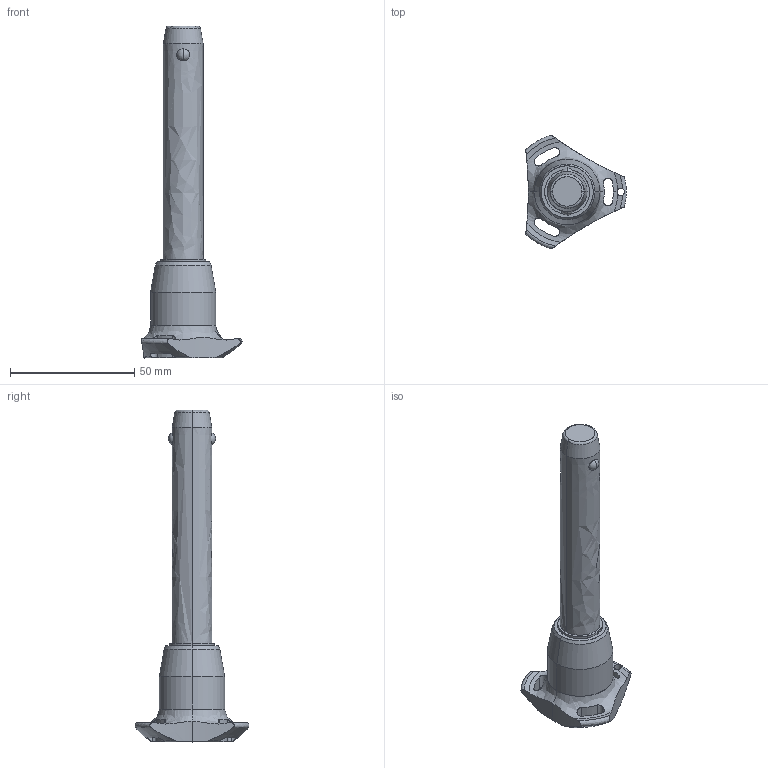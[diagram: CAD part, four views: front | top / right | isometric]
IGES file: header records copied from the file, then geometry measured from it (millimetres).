
Start section: SolidWorks IGES file using analytic representation for surfaces
Global section: file name: C:\Users\ianosborn\Desktop\QR1714_v2\QR1714_v2_20251112_IGES\QR1714.M16-080-S.igs; native system: SolidWorks 2019; preprocessor: SolidWorks 2019; author: IanOsborn; date: 251112.102239; units: millimetre
Bounding box: 40.5 x 45.88 x 133.7 mm (x, y, z)
Surface area: 10679.8 mm2 (no closed solid volume)
Topology: 0 solids, 0 shells, 65 faces, 1379 edges, 1375 vertices
Faces by surface type: revolution 50, bspline 15
